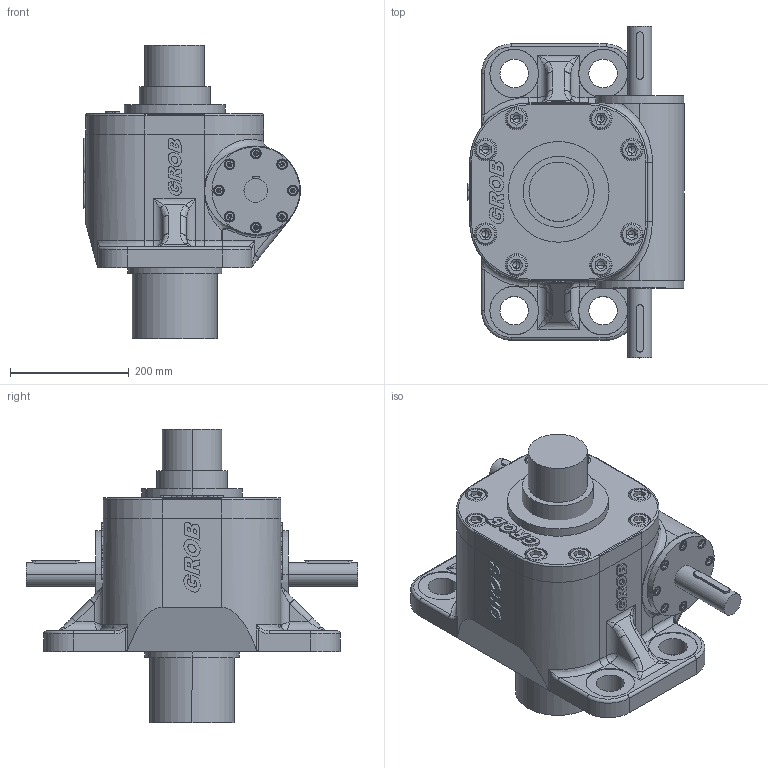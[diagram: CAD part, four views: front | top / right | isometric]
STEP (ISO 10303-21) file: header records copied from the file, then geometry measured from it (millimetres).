
FILE_DESCRIPTION(('STEP AP203'),'1');
FILE_NAME('mc50-gn-f-1f-ge-0100-0000-tr120x16-ab-o_0.stp','2023-12-18T13:33:24',('TraceParts'),('TraceParts S.A.'),'Spatial InterOp 3D',' ',' ');
FILE_SCHEMA(('CONFIG_CONTROL_DESIGN'));
Length unit declared in the file: millimetre
Products named in the file (1): 1
Bounding box: 365.4 x 560 x 495 mm (x, y, z)
Volume: 21498134.7 mm3; surface area: 1566236.5 mm2
Topology: 49 solids, 49 shells, 1451 faces, 3543 edges, 2180 vertices
Faces by surface type: cylinder 682, plane 446, cone 253, bspline 46, torus 24
Entity records: 48062 total; most frequent: CARTESIAN_POINT 14007, DIRECTION 7411, ORIENTED_EDGE 6858, EDGE_CURVE 3429, AXIS2_PLACEMENT_3D 2891, VERTEX_POINT 2180, EDGE_LOOP 1655, LINE 1629
